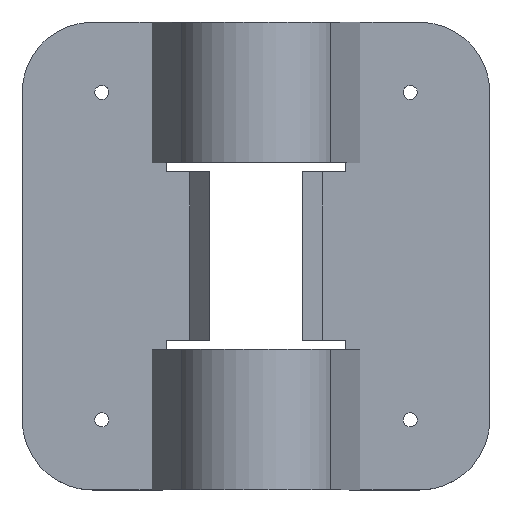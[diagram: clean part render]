
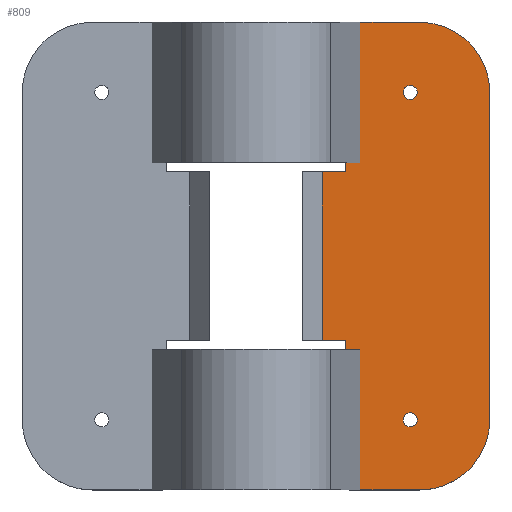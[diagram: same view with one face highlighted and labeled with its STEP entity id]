
A CAD part, top view. The second image highlights one B-rep face of the part: STEP entity #809.
In plain terms, the highlighted planar face has unit normal (0, 0, 1).
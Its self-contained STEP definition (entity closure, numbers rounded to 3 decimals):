
#3 = ORIENTED_EDGE ( 'NONE', *, *, #957, .F. ) ;
#7 = VECTOR ( 'NONE', #247, 1000. ) ;
#18 = DIRECTION ( 'NONE',  ( 0., 0., -1. ) ) ;
#44 = CARTESIAN_POINT ( 'NONE',  ( 22.193, 0., 3. ) ) ;
#47 = DIRECTION ( 'NONE',  ( 0., -1., 0. ) ) ;
#55 = CARTESIAN_POINT ( 'NONE',  ( -50., 70., 3. ) ) ;
#58 = ORIENTED_EDGE ( 'NONE', *, *, #819, .F. ) ;
#59 = LINE ( 'NONE', #382, #492 ) ;
#79 = CARTESIAN_POINT ( 'NONE',  ( 19.045, 100., 3. ) ) ;
#80 = DIRECTION ( 'NONE',  ( -1., 0., 0. ) ) ;
#97 = DIRECTION ( 'NONE',  ( 0., -1., 0. ) ) ;
#107 = DIRECTION ( 'NONE',  ( 1., 0., 0. ) ) ;
#111 = ORIENTED_EDGE ( 'NONE', *, *, #421, .T. ) ;
#113 = ORIENTED_EDGE ( 'NONE', *, *, #1178, .F. ) ;
#121 = ORIENTED_EDGE ( 'NONE', *, *, #156, .T. ) ;
#125 = EDGE_CURVE ( 'NONE', #1078, #463, #943, .T. ) ;
#136 = FACE_BOUND ( 'NONE', #927, .T. ) ;
#142 = DIRECTION ( 'NONE',  ( 1., 0., 0. ) ) ;
#156 = EDGE_CURVE ( 'NONE', #1302, #920, #165, .T. ) ;
#162 = LINE ( 'NONE', #646, #918 ) ;
#163 = VECTOR ( 'NONE', #97, 1000. ) ;
#165 = LINE ( 'NONE', #522, #1068 ) ;
#197 = CARTESIAN_POINT ( 'NONE',  ( 31.5, 15., 3. ) ) ;
#210 = AXIS2_PLACEMENT_3D ( 'NONE', #264, #355, #142 ) ;
#213 = EDGE_CURVE ( 'NONE', #1438, #1392, #1366, .T. ) ;
#231 = CARTESIAN_POINT ( 'NONE',  ( 50., 100., 3. ) ) ;
#238 = VECTOR ( 'NONE', #1011, 1000. ) ;
#239 = AXIS2_PLACEMENT_3D ( 'NONE', #1236, #1004, #1482 ) ;
#243 = ORIENTED_EDGE ( 'NONE', *, *, #1010, .T. ) ;
#247 = DIRECTION ( 'NONE',  ( 1., 0., 0. ) ) ;
#264 = CARTESIAN_POINT ( 'NONE',  ( 33., 85., 3. ) ) ;
#268 = CARTESIAN_POINT ( 'NONE',  ( 22.193, 30., 3. ) ) ;
#269 = CARTESIAN_POINT ( 'NONE',  ( 22.193, 100., 3. ) ) ;
#285 = CIRCLE ( 'NONE', #715, 1.5 ) ;
#300 = CARTESIAN_POINT ( 'NONE',  ( 50., 100., 3. ) ) ;
#302 = EDGE_LOOP ( 'NONE', ( #1143, #1148 ) ) ;
#307 = CARTESIAN_POINT ( 'NONE',  ( 19.045, 70., 3. ) ) ;
#319 = VERTEX_POINT ( 'NONE', #333 ) ;
#333 = CARTESIAN_POINT ( 'NONE',  ( 14.195, 68., 3. ) ) ;
#335 = AXIS2_PLACEMENT_3D ( 'NONE', #911, #1290, #1276 ) ;
#337 = VERTEX_POINT ( 'NONE', #197 ) ;
#338 = CARTESIAN_POINT ( 'NONE',  ( 14.195, 32., 3. ) ) ;
#349 = VERTEX_POINT ( 'NONE', #949 ) ;
#355 = DIRECTION ( 'NONE',  ( 0., 0., 1. ) ) ;
#361 = VECTOR ( 'NONE', #80, 1000. ) ;
#382 = CARTESIAN_POINT ( 'NONE',  ( 19.045, 100., 3. ) ) ;
#391 = CARTESIAN_POINT ( 'NONE',  ( 31.5, 85., 3. ) ) ;
#395 = VERTEX_POINT ( 'NONE', #1073 ) ;
#402 = EDGE_CURVE ( 'NONE', #1330, #1414, #624, .T. ) ;
#409 = ORIENTED_EDGE ( 'NONE', *, *, #402, .F. ) ;
#411 = DIRECTION ( 'NONE',  ( 0., 0., 1. ) ) ;
#421 = EDGE_CURVE ( 'NONE', #643, #883, #743, .T. ) ;
#463 = VERTEX_POINT ( 'NONE', #1246 ) ;
#489 = EDGE_CURVE ( 'NONE', #463, #1078, #718, .T. ) ;
#492 = VECTOR ( 'NONE', #1233, 1000. ) ;
#499 = ORIENTED_EDGE ( 'NONE', *, *, #994, .T. ) ;
#505 = DIRECTION ( 'NONE',  ( 0., 0., 1. ) ) ;
#513 = CARTESIAN_POINT ( 'NONE',  ( 14.195, 68., 3. ) ) ;
#522 = CARTESIAN_POINT ( 'NONE',  ( 50., 0., 3. ) ) ;
#544 = CIRCLE ( 'NONE', #1020, 15. ) ;
#562 = ORIENTED_EDGE ( 'NONE', *, *, #849, .F. ) ;
#602 = ORIENTED_EDGE ( 'NONE', *, *, #1312, .T. ) ;
#607 = CARTESIAN_POINT ( 'NONE',  ( 50., 15., 3. ) ) ;
#624 = LINE ( 'NONE', #231, #7 ) ;
#637 = CIRCLE ( 'NONE', #838, 1.5 ) ;
#643 = VERTEX_POINT ( 'NONE', #1301 ) ;
#646 = CARTESIAN_POINT ( 'NONE',  ( 22.193, 100., 3. ) ) ;
#663 = ORIENTED_EDGE ( 'NONE', *, *, #1444, .T. ) ;
#672 = VERTEX_POINT ( 'NONE', #307 ) ;
#685 = CARTESIAN_POINT ( 'NONE',  ( 35., 0., 3. ) ) ;
#713 = AXIS2_PLACEMENT_3D ( 'NONE', #720, #18, #975 ) ;
#715 = AXIS2_PLACEMENT_3D ( 'NONE', #873, #505, #107 ) ;
#718 = CIRCLE ( 'NONE', #239, 1.5 ) ;
#720 = CARTESIAN_POINT ( 'NONE',  ( 50., 100., 3. ) ) ;
#721 = ORIENTED_EDGE ( 'NONE', *, *, #213, .F. ) ;
#730 = FACE_BOUND ( 'NONE', #302, .T. ) ;
#743 = LINE ( 'NONE', #1200, #1162 ) ;
#765 = VECTOR ( 'NONE', #1096, 1000. ) ;
#768 = DIRECTION ( 'NONE',  ( 0., -1., 0. ) ) ;
#795 = LINE ( 'NONE', #79, #1360 ) ;
#809 = ADVANCED_FACE ( 'NONE', ( #730, #136, #828 ), #1307, .F. ) ;
#819 = EDGE_CURVE ( 'NONE', #1133, #337, #637, .T. ) ;
#827 = CARTESIAN_POINT ( 'NONE',  ( 14.195, 32., 3. ) ) ;
#828 = FACE_OUTER_BOUND ( 'NONE', #1177, .T. ) ;
#838 = AXIS2_PLACEMENT_3D ( 'NONE', #1480, #411, #1489 ) ;
#840 = VECTOR ( 'NONE', #1336, 1000. ) ;
#842 = ORIENTED_EDGE ( 'NONE', *, *, #1153, .T. ) ;
#849 = EDGE_CURVE ( 'NONE', #395, #672, #59, .T. ) ;
#856 = LINE ( 'NONE', #513, #765 ) ;
#863 = CARTESIAN_POINT ( 'NONE',  ( 22.193, 70., 3. ) ) ;
#873 = CARTESIAN_POINT ( 'NONE',  ( 33., 15., 3. ) ) ;
#883 = VERTEX_POINT ( 'NONE', #268 ) ;
#911 = CARTESIAN_POINT ( 'NONE',  ( 35., 85., 3. ) ) ;
#918 = VECTOR ( 'NONE', #47, 1000. ) ;
#920 = VERTEX_POINT ( 'NONE', #685 ) ;
#927 = EDGE_LOOP ( 'NONE', ( #58, #113 ) ) ;
#943 = CIRCLE ( 'NONE', #210, 1.5 ) ;
#949 = CARTESIAN_POINT ( 'NONE',  ( 19.045, 32., 3. ) ) ;
#957 = EDGE_CURVE ( 'NONE', #643, #349, #795, .T. ) ;
#975 = DIRECTION ( 'NONE',  ( -1., 0., 0. ) ) ;
#984 = DIRECTION ( 'NONE',  ( 0., 0., 1. ) ) ;
#990 = VECTOR ( 'NONE', #768, 1000. ) ;
#994 = EDGE_CURVE ( 'NONE', #1330, #1075, #1033, .T. ) ;
#1004 = DIRECTION ( 'NONE',  ( 0., 0., 1. ) ) ;
#1010 = EDGE_CURVE ( 'NONE', #1438, #1414, #1514, .T. ) ;
#1011 = DIRECTION ( 'NONE',  ( -1., 0., 0. ) ) ;
#1012 = DIRECTION ( 'NONE',  ( 1., 0., 0. ) ) ;
#1019 = CARTESIAN_POINT ( 'NONE',  ( 50., 85., 3. ) ) ;
#1020 = AXIS2_PLACEMENT_3D ( 'NONE', #1327, #984, #1341 ) ;
#1024 = ORIENTED_EDGE ( 'NONE', *, *, #1542, .T. ) ;
#1027 = LINE ( 'NONE', #1146, #361 ) ;
#1032 = VERTEX_POINT ( 'NONE', #338 ) ;
#1033 = LINE ( 'NONE', #1161, #163 ) ;
#1038 = ORIENTED_EDGE ( 'NONE', *, *, #1552, .T. ) ;
#1064 = CARTESIAN_POINT ( 'NONE',  ( 34.5, 15., 3. ) ) ;
#1068 = VECTOR ( 'NONE', #1012, 1000. ) ;
#1073 = CARTESIAN_POINT ( 'NONE',  ( 19.045, 68., 3. ) ) ;
#1075 = VERTEX_POINT ( 'NONE', #863 ) ;
#1078 = VERTEX_POINT ( 'NONE', #391 ) ;
#1085 = EDGE_CURVE ( 'NONE', #349, #1032, #1306, .T. ) ;
#1096 = DIRECTION ( 'NONE',  ( 0., -1., 0. ) ) ;
#1125 = LINE ( 'NONE', #55, #238 ) ;
#1133 = VERTEX_POINT ( 'NONE', #1064 ) ;
#1143 = ORIENTED_EDGE ( 'NONE', *, *, #489, .F. ) ;
#1146 = CARTESIAN_POINT ( 'NONE',  ( 14.195, 68., 3. ) ) ;
#1148 = ORIENTED_EDGE ( 'NONE', *, *, #125, .F. ) ;
#1153 = EDGE_CURVE ( 'NONE', #319, #1032, #856, .T. ) ;
#1161 = CARTESIAN_POINT ( 'NONE',  ( 22.193, 100., 3. ) ) ;
#1162 = VECTOR ( 'NONE', #1454, 1000. ) ;
#1177 = EDGE_LOOP ( 'NONE', ( #721, #243, #409, #499, #1038, #562, #663, #842, #1342, #3, #111, #1024, #121, #602 ) ) ;
#1178 = EDGE_CURVE ( 'NONE', #337, #1133, #285, .T. ) ;
#1200 = CARTESIAN_POINT ( 'NONE',  ( -50., 30., 3. ) ) ;
#1233 = DIRECTION ( 'NONE',  ( 0., 1., 0. ) ) ;
#1236 = CARTESIAN_POINT ( 'NONE',  ( 33., 85., 3. ) ) ;
#1246 = CARTESIAN_POINT ( 'NONE',  ( 34.5, 85., 3. ) ) ;
#1276 = DIRECTION ( 'NONE',  ( -1., 0., 0. ) ) ;
#1283 = DIRECTION ( 'NONE',  ( 0., 1., 0. ) ) ;
#1290 = DIRECTION ( 'NONE',  ( 0., 0., 1. ) ) ;
#1301 = CARTESIAN_POINT ( 'NONE',  ( 19.045, 30., 3. ) ) ;
#1302 = VERTEX_POINT ( 'NONE', #44 ) ;
#1306 = LINE ( 'NONE', #827, #840 ) ;
#1307 = PLANE ( 'NONE',  #713 ) ;
#1312 = EDGE_CURVE ( 'NONE', #920, #1392, #544, .T. ) ;
#1327 = CARTESIAN_POINT ( 'NONE',  ( 35., 15., 3. ) ) ;
#1330 = VERTEX_POINT ( 'NONE', #269 ) ;
#1336 = DIRECTION ( 'NONE',  ( -1., 0., 0. ) ) ;
#1341 = DIRECTION ( 'NONE',  ( -1., 0., 0. ) ) ;
#1342 = ORIENTED_EDGE ( 'NONE', *, *, #1085, .F. ) ;
#1360 = VECTOR ( 'NONE', #1283, 1000. ) ;
#1366 = LINE ( 'NONE', #300, #990 ) ;
#1392 = VERTEX_POINT ( 'NONE', #607 ) ;
#1414 = VERTEX_POINT ( 'NONE', #1446 ) ;
#1438 = VERTEX_POINT ( 'NONE', #1019 ) ;
#1444 = EDGE_CURVE ( 'NONE', #395, #319, #1027, .T. ) ;
#1446 = CARTESIAN_POINT ( 'NONE',  ( 35., 100., 3. ) ) ;
#1454 = DIRECTION ( 'NONE',  ( 1., 0., 0. ) ) ;
#1480 = CARTESIAN_POINT ( 'NONE',  ( 33., 15., 3. ) ) ;
#1482 = DIRECTION ( 'NONE',  ( 1., 0., 0. ) ) ;
#1489 = DIRECTION ( 'NONE',  ( 1., 0., 0. ) ) ;
#1514 = CIRCLE ( 'NONE', #335, 15. ) ;
#1542 = EDGE_CURVE ( 'NONE', #883, #1302, #162, .T. ) ;
#1552 = EDGE_CURVE ( 'NONE', #1075, #672, #1125, .T. ) ;
